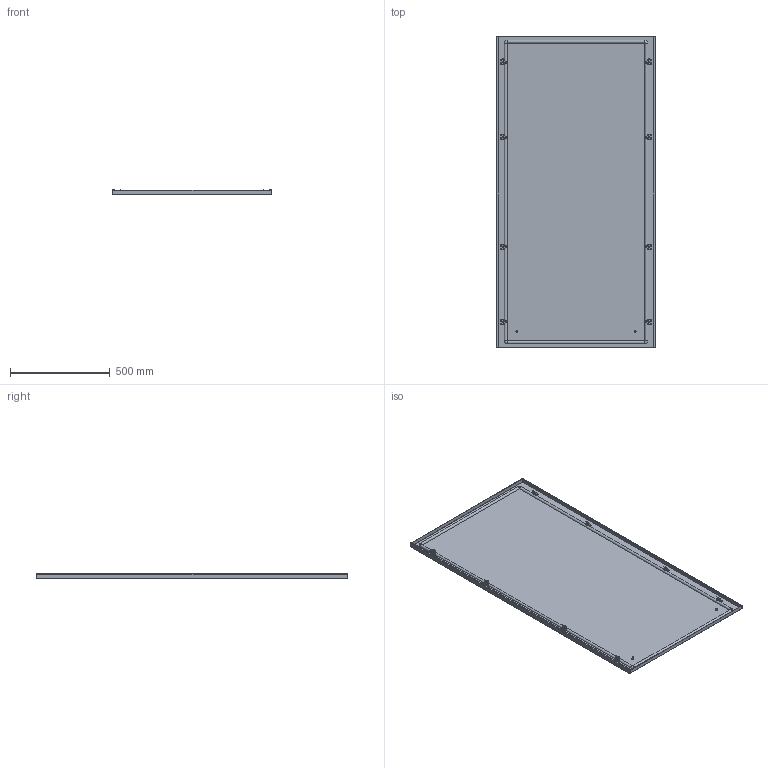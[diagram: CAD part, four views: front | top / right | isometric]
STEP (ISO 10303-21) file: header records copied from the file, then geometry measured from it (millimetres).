
FILE_DESCRIPTION(('Open CASCADE Model'),'2;1');
FILE_NAME('Open CASCADE Shape Model','2025-02-07T16:30:52',('Author'),( 'Open CASCADE'),'Open CASCADE STEP processor 7.8','Open CASCADE 7.8' ,'Unknown');
FILE_SCHEMA(('AUTOMOTIVE_DESIGN { 1 0 10303 214 1 1 1 1 }'));
Length unit declared in the file: millimetre
Products named in the file (10): Compound1; Compound2; Compound3; Solid1; Solid2; Solid3; Solid4; Solid5; Solid6; Solid7
Assembly tree (40 placements, depth 4):
  Compound1
    Compound2
      Compound3
        Solid1
        Solid2  x4
      Solid3
    Solid4  x8
    Solid5  x8
    Solid6  x8
    Solid7  x8
Bounding box: 794 x 1555 x 23.8 mm (x, y, z)
Volume: 2441155.2 mm3; surface area: 2917037.3 mm2
Topology: 38 solids, 38 shells, 1655 faces, 4040 edges, 2460 vertices
Faces by surface type: plane 1043, cone 308, cylinder 268, torus 26, bspline 8, revolution 2
Full cylindrical faces by diameter (mm): 5 x16, 6 x132, 7.5 x4, 8 x16, 10 x8, 11.57 x8
Entity records: 7801 total; most frequent: CARTESIAN_POINT 1491, DIRECTION 1263, ORIENTED_EDGE 1244, EDGE_CURVE 622, AXIS2_PLACEMENT_3D 426, LINE 409, VECTOR 409, VERTEX_POINT 387
